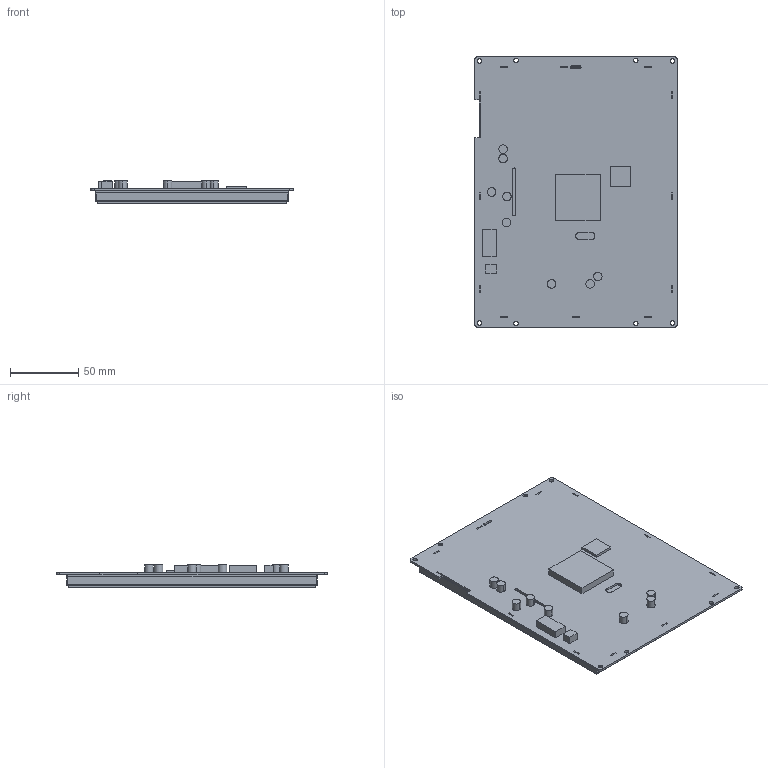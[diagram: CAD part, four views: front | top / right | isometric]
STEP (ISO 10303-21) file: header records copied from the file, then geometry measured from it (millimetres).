
FILE_DESCRIPTION((''),'2;1');
FILE_NAME('DMG80600K080_03WTR','2022-02-22T',('Administrator'),(''),'PRO/ENGINEER BY PARAMETRIC TECHNOLOGY CORPORATION, 2011310','PRO/ENGINEER BY PARAMETRIC TECHNOLOGY CORPORATION, 2011310','');
FILE_SCHEMA(('CONFIG_CONTROL_DESIGN','SHAPE_APPEARANCE_LAYERS_GROUPS'));
Length unit declared in the file: millimetre
Products named in the file (1): DMG80600K080_03WTR
Bounding box: 148.84 x 199.39 x 16.4 mm (x, y, z)
Volume: 235451.2 mm3; surface area: 169670.3 mm2
Topology: 1 solids, 2 shells, 211 faces, 622 edges, 396 vertices
Faces by surface type: plane 169, cylinder 42
Entity records: 8524 total; most frequent: ORIENTED_EDGE 1244, CARTESIAN_POINT 1229, DIRECTION 1132, EDGE_CURVE 622, VECTOR 534, LINE 534, VERTEX_POINT 396, AXIS2_PLACEMENT_3D 299
